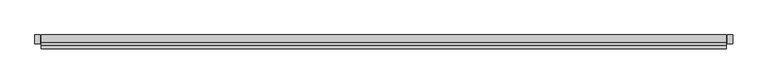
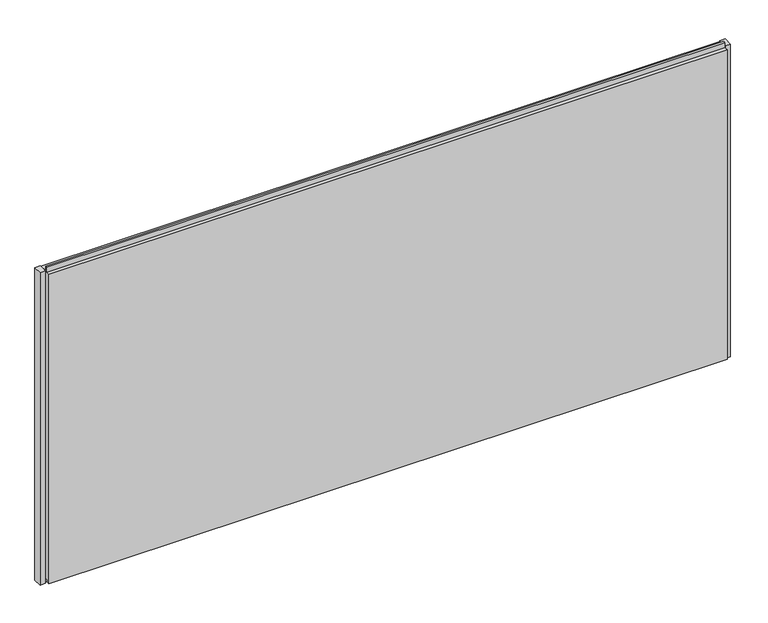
"""IFC4 building model written with IfcOpenShell, lengths in millimetres: plate geometry, Trimo_Qbiss Screen_Normal Panel-HORIZONTAL : HR - FB-F."""

from ifc_helpers import new_model, si_unit, frame, origin, place, context, project, spatial, polyline, outline, extrude, source, transform, mapped, element, save


def plate_4ea77f01(model_context):
    return source(origin(), model_context, "Body", "SweptSolid", [
        extrude(outline(polyline([(-1228.0, 67.8978162), (-1247.0, 67.8978162), (-1247.0, 100.0), (-1228.0, 100.0), (-1228.0, 67.8978162)])), frame((0.0, 0.0, -1.0), z_axis=(0.0, 0.0, 1.0), x_axis=(1.0, 0.0, 0.0)), (0.0, 0.0, 1.0), 1200.0),
        extrude(outline(polyline([(1259.5, 67.8978162), (1240.5, 67.8978162), (1240.5, 100.0), (1259.5, 100.0), (1259.5, 67.8978162)])), frame((0.0, 0.0, -1.0), z_axis=(0.0, 0.0, 1.0), x_axis=(1.0, 0.0, 0.0)), (0.0, 0.0, 1.0), 1200.0),
        extrude(outline(polyline([(71.0, 1196.0), (100.0, 1196.0), (100.0, 0.0), (72.0, 0.0), (72.0, 15.5), (62.0, 15.5), (62.0, 7.0), (50.0, 7.0), (50.0, 1196.0), (63.0, 1196.0), (63.0, 1214.5), (71.0, 1214.5), (71.0, 1196.0)])), frame((-1225.0, 0.0, 0.0), z_axis=(1.0, 0.0, 0.0), x_axis=(0.0, 1.0, 0.0)), (0.0, 0.0, 1.0), 2462.5),
    ])


if __name__ == "__main__":
    model = new_model("IFC4")
    model_context = context("Model", 3, world=origin())
    ifc_project = project(units=[si_unit("LENGTHUNIT", "METRE", prefix="MILLI")], contexts=[model_context])
    site = spatial("IfcSite", under=ifc_project)
    building = spatial("IfcBuilding", under=site)
    placement = place(None, origin())
    plate_shape = plate_4ea77f01(model_context)
    element("IfcPlate", 1, ObjectType="Trimo_Qbiss Screen_Normal Panel-HORIZONTAL : HR - FB-F", at=placement, inside=building, context=model_context, shape_type="MappedRepresentation", body=[
        mapped(plate_shape, transform((0.0, 0.0, 0.0), x_axis=(1.0, 0.0, 0.0), y_axis=(0.0, 1.0, 0.0), z_axis=(0.0, 0.0, 1.0))),
    ])
    save(model, "model.ifc")
